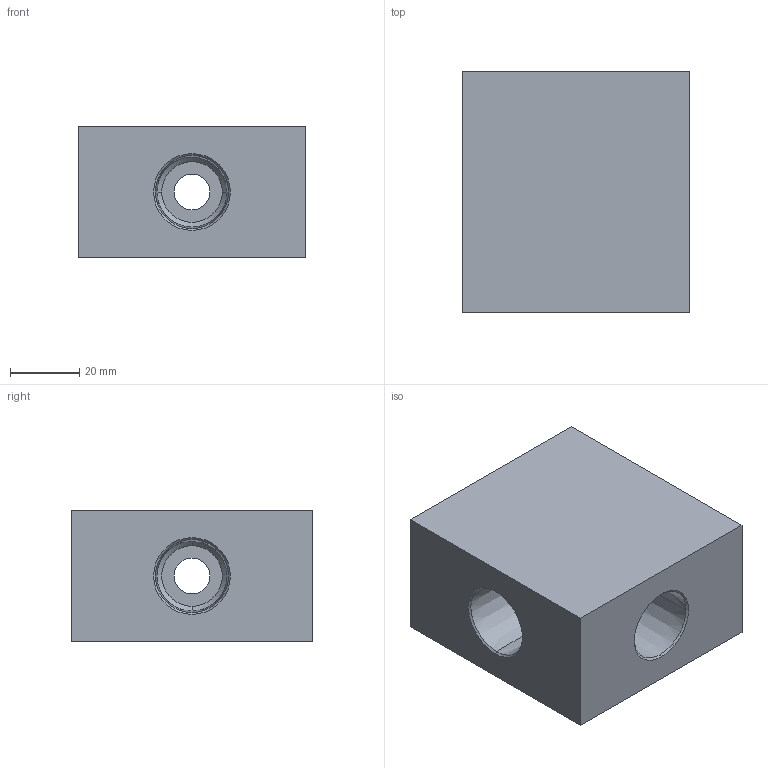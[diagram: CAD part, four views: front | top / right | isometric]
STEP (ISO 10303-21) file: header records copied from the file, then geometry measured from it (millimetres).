
FILE_DESCRIPTION (( 'STEP AP203' ), '1' );
FILE_NAME ('FTNCS08.STEP', '2026-06-26T00:53:08', ( 'USER' ), ( '' ), 'SwSTEP 2.0', 'SolidWorks 2023', '' );
FILE_SCHEMA (( 'CONFIG_CONTROL_DESIGN' ));
Length unit declared in the file: millimetre
Products named in the file (1): FTNCS08
Bounding box: 66 x 70 x 38 mm (x, y, z)
Volume: 144798.3 mm3; surface area: 25450.8 mm2
Topology: 1 solids, 1 shells, 50 faces, 112 edges, 66 vertices
Faces by surface type: cone 24, cylinder 16, plane 10
Entity records: 1469 total; most frequent: DIRECTION 258, CARTESIAN_POINT 253, ORIENTED_EDGE 224, EDGE_CURVE 112, AXIS2_PLACEMENT_3D 103, VERTEX_POINT 66, EDGE_LOOP 58, LINE 52
